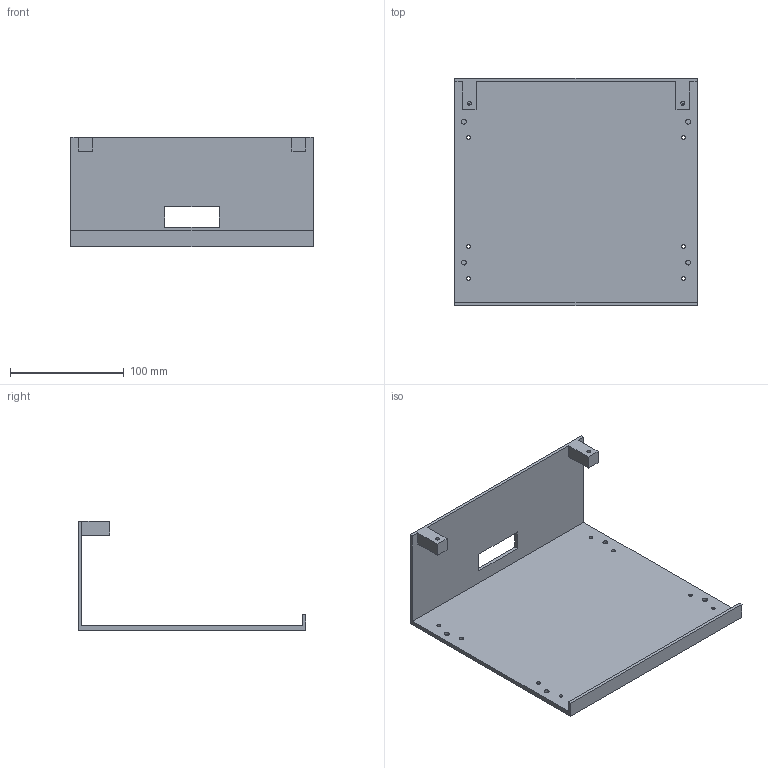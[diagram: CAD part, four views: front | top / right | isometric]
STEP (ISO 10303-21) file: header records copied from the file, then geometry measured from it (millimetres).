
FILE_DESCRIPTION(('Base splice and hand/dowel native rebuild. P1 head/arm retained as imported base geometry.'),'2;1');
FILE_NAME('PILL_BASE_TRAY_2.step','',(''),(''),'SolidCraft','SolidCraft','');
FILE_SCHEMA(('AP242_MANAGED_MODEL_BASED_3D_ENGINEERING_MIM_LF { 1 0 10303 442 1 1 4 }'));
Length unit declared in the file: millimetre
Products named in the file (1): PILL_BASE_TRAY_2
Bounding box: 213.33 x 200 x 96 mm (x, y, z)
Volume: 239201.2 mm3; surface area: 134598.3 mm2
Topology: 1 solids, 1 shells, 80 faces, 226 edges, 160 vertices
Faces by surface type: plane 66, cylinder 14
Full cylindrical faces by diameter (mm): 3.4 x10, 4.4 x4
Entity records: 2154 total; most frequent: CARTESIAN_POINT 488, ORIENTED_EDGE 452, EDGE_CURVE 226, LINE 170, VERTEX_POINT 160, EDGE_LOOP 114, FACE_BOUND 114, DIRECTION 102
